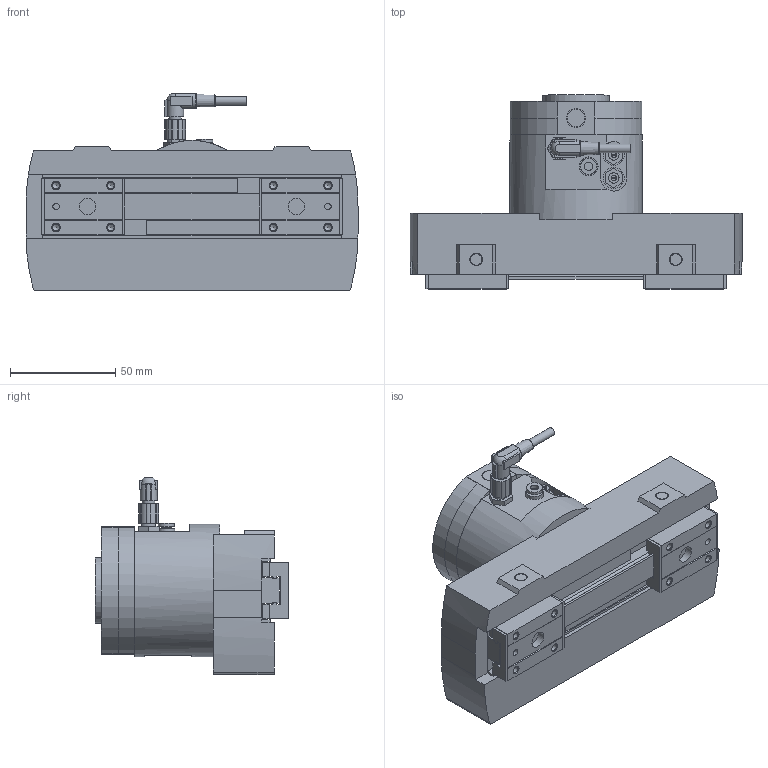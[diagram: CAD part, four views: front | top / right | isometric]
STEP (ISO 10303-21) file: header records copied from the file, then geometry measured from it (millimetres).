
FILE_DESCRIPTION(/* description */ ('STEP AP242','CAx-IF Rec.Pracs.---Representation and Presentation of Product Manufacturing Information (PMI)---4.0---2014-10-13','CAx-IF Rec.Pracs.---3D Tessellated Geometry---0.4---2014-09-14','2;1'),/* implementation_level */ '2;1');
FILE_NAME(/* name */ 'RMHF2-16D2-011A-DE(64_0)',/* time_stamp */ '2026-03-12T10:45:52+01:00',/* author */ ('License CC BY-ND 4.0'),/* organization */ ('CADENAS'),/* preprocessor_version */ 'ST-DEVELOPER v20',/* originating_system */ 'PARTsolutions',/* authorisation */ ' ');
FILE_SCHEMA (('AP242_MANAGED_MODEL_BASED_3D_ENGINEERING_MIM_LF { 1 0 10303 442 1 1 4 }'));
Length unit declared in the file: millimetre
Products named in the file (10): RMHF2-16D2-011A-DE(64_0); RMH-A00-02_RMHF2; V124-5MOU; RMH-A32-01(0); RMH-A32-08-B_011A; D-MP050_RMHF2; RMHF2-16D2(0)_FINGER; RMH-A00-11-A_011; RMH-A00-09-A(0); RMTM2-4T2
Assembly tree (11 placements, depth 2):
  RMHF2-16D2-011A-DE(64_0)
    RMH-A00-02_RMHF2
    V124-5MOU  x2
    RMH-A32-01(0)
    RMH-A32-08-B_011A
    D-MP050_RMHF2
    RMHF2-16D2(0)_FINGER  x2
    RMH-A00-11-A_011
    RMH-A00-09-A(0)
    RMTM2-4T2
Bounding box: 158 x 92.3 x 93.8 mm (x, y, z)
Volume: 405876.8 mm3; surface area: 137575.5 mm2
Topology: 11 solids, 11 shells, 753 faces, 1948 edges, 1277 vertices
Faces by surface type: plane 516, cylinder 185, cone 40, torus 11, sphere 1
Full cylindrical faces by diameter (mm): 2.1 x2, 2.459 x4, 2.6 x1, 2.621 x2, 3 x4, 3.2 x4, 3.242 x8, 4 x2, 4.134 x6, 4.79 x1, 5 x4, 5.5 x2, 5.8 x1, 6 x3, 6.6 x4, 6.9 x1, 7.7 x1, 8 x5, 8.2 x1, 8.5 x2, 9 x3, 10 x2, 11 x4, 14 x1, 31.5 x3, 63 x1
Entity records: 17080 total; most frequent: CARTESIAN_POINT 3022, DIRECTION 2872, ORIENTED_EDGE 2684, EDGE_CURVE 1342, AXIS2_PLACEMENT_3D 962, VERTEX_POINT 950, LINE 948, VECTOR 948
